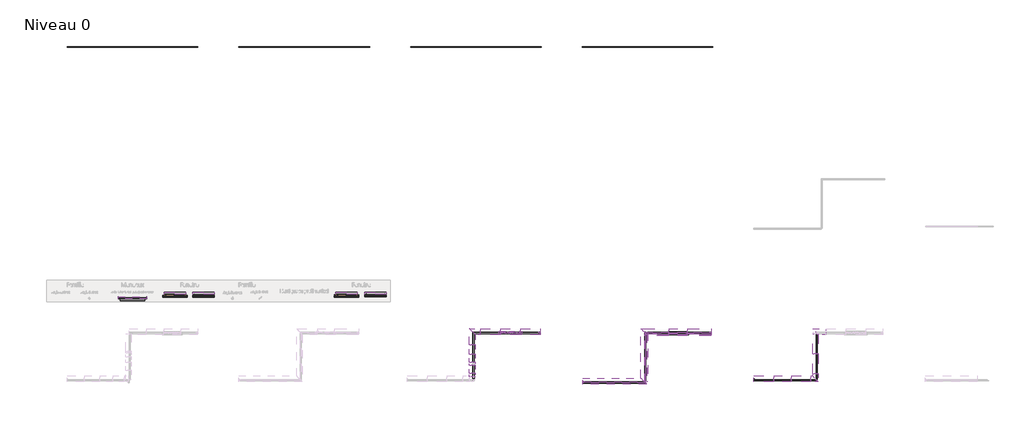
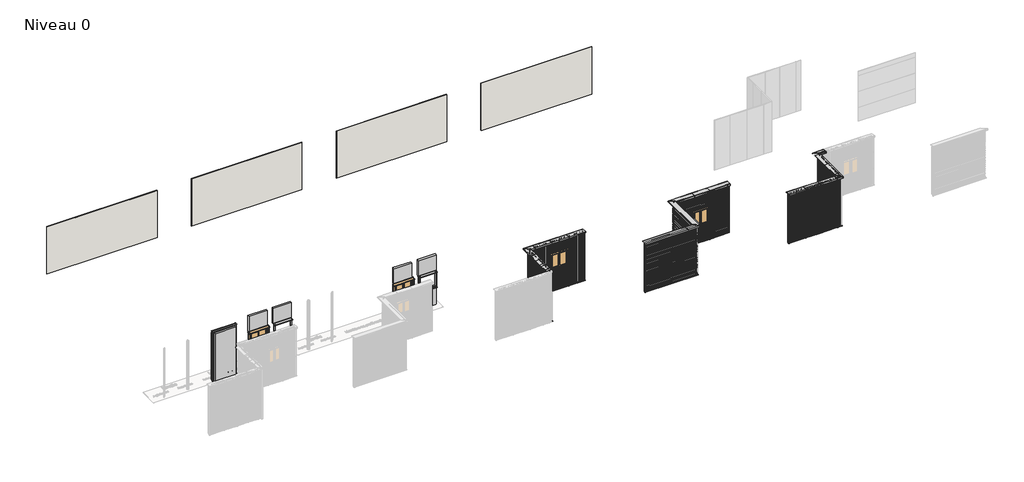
# One storey, part 2 of 11: 61 members, 48 plates, 4 doors, 4 walls.
"""IFC4 building model written with IfcOpenShell, lengths in millimetres."""

from ifc_helpers import new_model, si_unit, origin, origin_with_axes, place, context, project, spatial, polyline, outline, extrude, transform, mapped, element, save
from components import door_75d18bf7, door_d6fd2e2d, door_a9bf50d7, door_7bd7af4c, meneau_rectangulaire_553c7b44, meneau_rectangulaire_9e9f001b, meneau_rectangulaire_f5eb5793, meneau_rectangulaire_9a4c4fa2, meneau_rectangulaire_5152b783, meneau_rectangulaire_743d7d59, meneau_rectangulaire_0711325e, meneau_rectangulaire_151b46ef, meneau_rectangulaire_df2532a2, meneau_rectangulaire_9666dcc3, meneau_rectangulaire_7286c9cd, meneau_rectangulaire_fa6a0a9a, meneau_rectangulaire_ebad5e87, meneau_rectangulaire_bas_de_facade_e577a29c, meneau_rectangulaire_bas_de_facade_ff95f192, meneau_rectangulaire_bas_de_facade_054009f9, meneau_rectangulaire_bas_de_facade_33831006, meneau_rectangulaire_bas_de_facade_e9d27f3a, meneau_rectangulaire_bas_de_facade_be514184, meneau_rectangulaire_bas_de_facade_bd68af9d, meneau_rectangulaire_bas_de_facade_6c0907f5, meneau_rectangulaire_bas_de_facade_1d87740d, meneau_rectangulaire_bas_de_facade_afe9429f, meneau_rectangulaire_bas_de_facade_60382fdd, meneau_rectangulaire_bas_de_facade_97d3a993, meneau_rectangulaire_bas_de_facade_100d68d3, meneau_rectangulaire_bas_de_facade_49befa15, meneau_rectangulaire_bas_de_facade_a66ec44f, meneau_rectangulaire_bas_de_facade_77d001c4, meneau_rectangulaire_bas_de_facade_ae91a431, meneau_rectangulaire_bas_de_facade_21b43587, meneau_rectangulaire_bas_de_facade_0b753ce1, meneau_rectangulaire_haut_de_facade_bf62b1f4, meneau_rectangulaire_haut_de_facade_54da1b67, meneau_rectangulaire_haut_de_facade_83064606, meneau_rectangulaire_haut_de_facade_4c8db4a6, meneau_rectangulaire_haut_de_facade_865cd38e, meneau_rectangulaire_haut_de_facade_1b22ee8f, meneau_rectangulaire_haut_de_facade_e015aa21, meneau_rectangulaire_haut_de_facade_35e44159, meneau_rectangulaire_haut_de_facade_f07aff2c, meneau_rectangulaire_haut_de_facade_8eac4081, meneau_rectangulaire_haut_de_facade_12411631, meneau_rectangulaire_haut_de_facade_04a1f5c5, meneau_rectangulaire_haut_de_facade_5fdc1807, meneau_rectangulaire_haut_de_facade_ec6043b4, meneau_rectangulaire_haut_de_facade_ee0e3896, meneau_rectangulaire_haut_de_facade_bc7f2701, meneau_rectangulaire_haut_de_facade_a1bbe16c, plate_c23974d8, plate_ec8c995e, plate_d5ea7675, plate_c734a921, plate_aad33c17, plate_d554c0d4, plate_73b56dba, plate_e0f6d8fb, plate_fa6cf1e6, plate_f03b85ac, plate_7821fd8d, plate_2c54484f, plate_bd2025f0, plate_cdf76dba, plate_c95ae0e2, plate_763c75ff, plate_9f5fbec9, plate_852c840c, plate_f804d27e, plate_e83ec595, plate_3bc35dd9, plate_309b9aa2, plate_13dd3e1a, plate_fcad7bac, plate_3cee942e, vide_59922d02, vide_e340dee7, vide_395f324f, vide_271f8b02, vide_33e1f8f7, vide_5bf1e96c

model = new_model("IFC4")

# Units and contexts
model_context = context("Model", 3, world=origin())
ifc_project = project(units=[si_unit("LENGTHUNIT", "METRE", prefix="MILLI")], contexts=[model_context])

# Site, building, storey
site = spatial("IfcSite", under=ifc_project)
building = spatial("IfcBuilding", under=site)
storey = spatial("IfcBuildingStorey", under=building, Name="Niveau 0", Elevation=0.0)

# Doors
placement = place(None, origin())
door_shape = door_75d18bf7(model_context)
element("IfcDoor", 1, ObjectType="Fenetre pour Tenda V : Fenetre pour Tenda V", at=placement, inside=storey, context=model_context, shape_type="MappedRepresentation", body=[
    mapped(door_shape, transform((21604.5725557, -16882.8730274, 1240.0), x_axis=(-1.0, 0.0, 0.0), y_axis=(0.0, -1.0, 0.0), z_axis=(0.0, 0.0, 1.0))),
])
door_2_shape = door_d6fd2e2d(model_context)
element("IfcDoor", 2, ObjectType="Fenetre pour Tenda Horizontal : Fenetre pour Tenda H", at=placement, inside=storey, context=model_context, shape_type="MappedRepresentation", body=[
    mapped(door_2_shape, transform((29420.5476362, -16885.9155296, 957.5), x_axis=(-1.0, 0.0, 0.0), y_axis=(0.0, -1.0, 0.0), z_axis=(0.0, 0.0, 1.0))),
])
door_3_shape = door_a9bf50d7(model_context)
element("IfcDoor", 3, ObjectType="Fenetre pour Tenda V : Fenetre pour Tenda V", at=placement, inside=storey, context=model_context, shape_type="MappedRepresentation", body=[
    mapped(door_3_shape, transform((5988.0369394, -15153.8347653, 1100.0), x_axis=(1.0, 0.0, 0.0), y_axis=(0.0, 1.0, 0.0), z_axis=(0.0, 0.0, 1.0))),
])
door_4_shape = door_7bd7af4c(model_context)
element("IfcDoor", 4, ObjectType="Fenetre pour Tenda Horizontal : Fenetre pour Tenda H", at=placement, inside=storey, context=model_context, shape_type="MappedRepresentation", body=[
    mapped(door_4_shape, transform((13988.0369394, -15153.8347653, 1100.0), x_axis=(1.0, 0.0, 0.0), y_axis=(0.0, 1.0, 0.0), z_axis=(0.0, 0.0, 1.0))),
])

# Members
meneau_rectangulaire_shape = meneau_rectangulaire_553c7b44(model_context)
element("IfcMember", 5, ObjectType="Meneau rectangulaire : Jonction contre mur Droite H", at=placement, inside=storey, context=model_context, shape_type="MappedRepresentation", body=[
    mapped(meneau_rectangulaire_shape, transform((30970.5476362, -16885.9155296, 1885.5), x_axis=(1.0, 0.0, 0.0), y_axis=(0.0, 1.0, 0.0), z_axis=(0.0, 0.0, 1.0))),
])
element("IfcMember", 6, ObjectType="Meneau rectangulaire : Jonction contre mur Droite H", at=placement, inside=storey, context=model_context, shape_type="MappedRepresentation", body=[
    mapped(meneau_rectangulaire_shape, transform((30970.5476362, -16885.9155296, 2813.5), x_axis=(1.0, 0.0, 0.0), y_axis=(0.0, 1.0, 0.0), z_axis=(0.0, 0.0, 1.0))),
])
meneau_rectangulaire_2_shape = meneau_rectangulaire_9e9f001b(model_context)
element("IfcMember", 7, ObjectType="Meneau rectangulaire : Jonction contre mur Droite V", at=placement, inside=storey, context=model_context, shape_type="MappedRepresentation", body=[
    mapped(meneau_rectangulaire_2_shape, transform((22999.5725557, -16882.8730274, 2160.0), x_axis=(1.0, 0.0, 0.0), y_axis=(0.0, 1.0, 0.0), z_axis=(0.0, 0.0, 1.0))),
])
meneau_rectangulaire_3_shape = meneau_rectangulaire_f5eb5793(model_context)
element("IfcMember", 8, ObjectType="Meneau rectangulaire : Jonction contre mur Droite V", at=placement, inside=storey, context=model_context, shape_type="MappedRepresentation", body=[
    mapped(meneau_rectangulaire_3_shape, transform((22999.5725557, -16882.8730274, 1240.0), x_axis=(1.0, 0.0, 0.0), y_axis=(0.0, 1.0, 0.0), z_axis=(0.0, 0.0, 1.0))),
])
meneau_rectangulaire_4_shape = meneau_rectangulaire_9a4c4fa2(model_context)
element("IfcMember", 9, ObjectType="Meneau rectangulaire : Jonction contre mur Gauche V", at=placement, inside=storey, context=model_context, shape_type="MappedRepresentation", body=[
    mapped(meneau_rectangulaire_4_shape, transform((32961.6404896, -19085.8319197, 57.8548383), x_axis=(-1.0, 0.0, 0.0), y_axis=(0.0, 1.0, 0.0), z_axis=(0.0, 0.0, -1.0))),
])
meneau_rectangulaire_5_shape = meneau_rectangulaire_5152b783(model_context)
element("IfcMember", 10, ObjectType="Meneau rectangulaire : Jonction contre mur Droite V", at=placement, inside=storey, context=model_context, shape_type="MappedRepresentation", body=[
    mapped(meneau_rectangulaire_5_shape, transform((22999.5725557, -16882.8730274, 2819.0), x_axis=(1.0, 0.0, 0.0), y_axis=(0.0, 1.0, 0.0), z_axis=(0.0, 0.0, 1.0))),
])
meneau_rectangulaire_6_shape = meneau_rectangulaire_743d7d59(model_context)
element("IfcMember", 11, ObjectType="Meneau rectangulaire : Jonction contre mur Gauche H", at=placement, inside=storey, context=model_context, shape_type="MappedRepresentation", body=[
    mapped(meneau_rectangulaire_6_shape, transform((24975.5476362, -19184.1026202, 57.8548383), x_axis=(-1.0, 0.0, 0.0), y_axis=(0.0, 1.0, 0.0), z_axis=(0.0, 0.0, -1.0))),
])
meneau_rectangulaire_7_shape = meneau_rectangulaire_0711325e(model_context)
element("IfcMember", 12, ObjectType="Meneau rectangulaire : Jonction contre mur Droite H", at=placement, inside=storey, context=model_context, shape_type="MappedRepresentation", body=[
    mapped(meneau_rectangulaire_7_shape, transform((30970.5476362, -16885.9155296, 957.5), x_axis=(1.0, 0.0, 0.0), y_axis=(0.0, 1.0, 0.0), z_axis=(0.0, 0.0, 1.0))),
])
meneau_rectangulaire_8_shape = meneau_rectangulaire_151b46ef(model_context)
element("IfcMember", 13, ObjectType="Meneau rectangulaire : Jonction contre mur Gauche V", at=placement, inside=storey, context=model_context, shape_type="MappedRepresentation", body=[
    mapped(meneau_rectangulaire_8_shape, transform((4678.0369394, -15270.336188, 2900.0), x_axis=(0.0, 0.0, 1.0), y_axis=(0.0, -1.0, 0.0), z_axis=(1.0, 0.0, 0.0))),
])
meneau_rectangulaire_9_shape = meneau_rectangulaire_df2532a2(model_context)
element("IfcMember", 14, ObjectType="Meneau rectangulaire : Jonction contre mur Droite V", at=placement, inside=storey, context=model_context, shape_type="MappedRepresentation", body=[
    mapped(meneau_rectangulaire_9_shape, transform((3338.0369394, -15270.336188, 2804.1921851), x_axis=(-1.0, 0.0, 0.0), y_axis=(0.0, -1.0, 0.0), z_axis=(0.0, 0.0, 1.0))),
])
meneau_rectangulaire_10_shape = meneau_rectangulaire_9666dcc3(model_context)
element("IfcMember", 15, ObjectType="Meneau rectangulaire : Jonction contre mur Gauche V", at=placement, inside=storey, context=model_context, shape_type="MappedRepresentation", body=[
    mapped(meneau_rectangulaire_10_shape, transform((4678.0369394, -15270.336188, 57.8548383), x_axis=(1.0, 0.0, 0.0), y_axis=(0.0, -1.0, 0.0), z_axis=(0.0, 0.0, -1.0))),
])
meneau_rectangulaire_11_shape = meneau_rectangulaire_7286c9cd(model_context)
element("IfcMember", 16, ObjectType="Meneau rectangulaire : Jonction contre mur Gauche H", at=placement, inside=storey, context=model_context, shape_type="MappedRepresentation", body=[
    mapped(meneau_rectangulaire_11_shape, transform((24975.5476362, -19184.1026202, 956.0), x_axis=(-1.0, 0.0, 0.0), y_axis=(0.0, 1.0, 0.0), z_axis=(0.0, 0.0, -1.0))),
])
meneau_rectangulaire_12_shape = meneau_rectangulaire_fa6a0a9a(model_context)
element("IfcMember", 17, ObjectType="Meneau rectangulaire : Jonction contre mur Gauche H", at=placement, inside=storey, context=model_context, shape_type="MappedRepresentation", body=[
    mapped(meneau_rectangulaire_12_shape, transform((24975.5476362, -19184.1026202, 1790.0), x_axis=(-1.0, 0.0, 0.0), y_axis=(0.0, 1.0, 0.0), z_axis=(0.0, 0.0, -1.0))),
])
meneau_rectangulaire_13_shape = meneau_rectangulaire_ebad5e87(model_context)
element("IfcMember", 18, ObjectType="Meneau rectangulaire : Jonction contre mur Gauche H", at=placement, inside=storey, context=model_context, shape_type="MappedRepresentation", body=[
    mapped(meneau_rectangulaire_13_shape, transform((24975.5476362, -19184.1026202, 2518.0), x_axis=(-1.0, 0.0, 0.0), y_axis=(0.0, 1.0, 0.0), z_axis=(0.0, 0.0, -1.0))),
])
meneau_rectangulaire_bas_de_facade_shape = meneau_rectangulaire_bas_de_facade_e577a29c(model_context)
element("IfcMember", 19, ObjectType="Meneau rectangulaire : Bas de facade", at=placement, inside=storey, context=model_context, shape_type="MappedRepresentation", body=[
    mapped(meneau_rectangulaire_bas_de_facade_shape, transform((21139.5725557, -16882.8730274, 0.0), x_axis=(0.0, 0.0, -1.0), y_axis=(0.0, 1.0, 0.0), z_axis=(1.0, 0.0, 0.0))),
])
element("IfcMember", 20, ObjectType="Meneau rectangulaire : Bas de facade", at=placement, inside=storey, context=model_context, shape_type="MappedRepresentation", body=[
    mapped(meneau_rectangulaire_bas_de_facade_shape, transform((22069.5725557, -16882.8730274, 0.0), x_axis=(0.0, 0.0, -1.0), y_axis=(0.0, 1.0, 0.0), z_axis=(1.0, 0.0, 0.0))),
])
meneau_rectangulaire_bas_de_facade_2_shape = meneau_rectangulaire_bas_de_facade_ff95f192(model_context)
element("IfcMember", 21, ObjectType="Meneau rectangulaire : Bas de facade", at=placement, inside=storey, context=model_context, shape_type="MappedRepresentation", body=[
    mapped(meneau_rectangulaire_bas_de_facade_2_shape, transform((35861.6404896, -17885.7373975, 0.0), x_axis=(0.0, 0.0, -1.0), y_axis=(-1.0, 0.0, 0.0), z_axis=(0.0, 1.0, 0.0))),
])
element("IfcMember", 22, ObjectType="Meneau rectangulaire : Bas de facade", at=placement, inside=storey, context=model_context, shape_type="MappedRepresentation", body=[
    mapped(meneau_rectangulaire_bas_de_facade_2_shape, transform((35618.6404896, -19085.8319197, 0.0), x_axis=(0.0, 0.0, -1.0), y_axis=(0.0, 1.0, 0.0), z_axis=(1.0, 0.0, 0.0))),
])
element("IfcMember", 23, ObjectType="Meneau rectangulaire : Bas de facade", at=placement, inside=storey, context=model_context, shape_type="MappedRepresentation", body=[
    mapped(meneau_rectangulaire_bas_de_facade_2_shape, transform((35861.6404896, -16957.7373975, 0.0), x_axis=(0.0, 0.0, -1.0), y_axis=(-1.0, 0.0, 0.0), z_axis=(0.0, 1.0, 0.0))),
])
meneau_rectangulaire_bas_de_facade_3_shape = meneau_rectangulaire_bas_de_facade_054009f9(model_context)
element("IfcMember", 24, ObjectType="Meneau rectangulaire : Bas de facade", at=placement, inside=storey, context=model_context, shape_type="MappedRepresentation", body=[
    mapped(meneau_rectangulaire_bas_de_facade_3_shape, transform((34690.6404896, -19085.8319197, 0.0), x_axis=(0.0, 0.0, -1.0), y_axis=(0.0, 1.0, 0.0), z_axis=(1.0, 0.0, 0.0))),
])
meneau_rectangulaire_bas_de_facade_4_shape = meneau_rectangulaire_bas_de_facade_33831006(model_context)
element("IfcMember", 25, ObjectType="Meneau rectangulaire : Bas de facade", at=placement, inside=storey, context=model_context, shape_type="MappedRepresentation", body=[
    mapped(meneau_rectangulaire_bas_de_facade_4_shape, transform((29850.5476362, -16885.9155296, 0.0), x_axis=(0.0, 0.0, -1.0), y_axis=(0.0, 1.0, 0.0), z_axis=(1.0, 0.0, 0.0))),
])
element("IfcMember", 26, ObjectType="Meneau rectangulaire : Bas de facade", at=placement, inside=storey, context=model_context, shape_type="MappedRepresentation", body=[
    mapped(meneau_rectangulaire_bas_de_facade_shape, transform((22999.5725557, -16882.8730274, 0.0), x_axis=(0.0, 0.0, -1.0), y_axis=(0.0, 1.0, 0.0), z_axis=(1.0, 0.0, 0.0))),
])
element("IfcMember", 27, ObjectType="Meneau rectangulaire : Bas de facade", at=placement, inside=storey, context=model_context, shape_type="MappedRepresentation", body=[
    mapped(meneau_rectangulaire_bas_de_facade_2_shape, transform((33889.6404896, -19085.8319197, 0.0), x_axis=(0.0, 0.0, -1.0), y_axis=(0.0, 1.0, 0.0), z_axis=(1.0, 0.0, 0.0))),
])
meneau_rectangulaire_bas_de_facade_5_shape = meneau_rectangulaire_bas_de_facade_e9d27f3a(model_context)
element("IfcMember", 28, ObjectType="Meneau rectangulaire : Bas de facade", at=placement, inside=storey, context=model_context, shape_type="MappedRepresentation", body=[
    mapped(meneau_rectangulaire_bas_de_facade_5_shape, transform((30970.5476362, -16885.9155296, 0.0), x_axis=(0.0, 0.0, -1.0), y_axis=(0.0, 1.0, 0.0), z_axis=(1.0, 0.0, 0.0))),
])
meneau_rectangulaire_bas_de_facade_6_shape = meneau_rectangulaire_bas_de_facade_be514184(model_context)
element("IfcMember", 29, ObjectType="Meneau rectangulaire : Bas de facade", at=placement, inside=storey, context=model_context, shape_type="MappedRepresentation", body=[
    mapped(meneau_rectangulaire_bas_de_facade_6_shape, transform((28990.5476362, -16885.9155296, 0.0), x_axis=(0.0, 0.0, -1.0), y_axis=(0.0, 1.0, 0.0), z_axis=(1.0, 0.0, 0.0))),
])
meneau_rectangulaire_bas_de_facade_7_shape = meneau_rectangulaire_bas_de_facade_bd68af9d(model_context)
element("IfcMember", 30, ObjectType="Meneau rectangulaire : Bas de facade", at=placement, inside=storey, context=model_context, shape_type="MappedRepresentation", body=[
    mapped(meneau_rectangulaire_bas_de_facade_7_shape, transform((27870.5476362, -16885.9155296, 0.0), x_axis=(0.0, 0.0, -1.0), y_axis=(-1.0, 0.0, 0.0), z_axis=(0.0, 1.0, 0.0))),
])
meneau_rectangulaire_bas_de_facade_8_shape = meneau_rectangulaire_bas_de_facade_6c0907f5(model_context)
element("IfcMember", 31, ObjectType="Meneau rectangulaire : Bas de facade", at=placement, inside=storey, context=model_context, shape_type="MappedRepresentation", body=[
    mapped(meneau_rectangulaire_bas_de_facade_8_shape, transform((27870.5476362, -19184.1026202, 0.0), x_axis=(0.0, 0.0, -1.0), y_axis=(0.0, 1.0, 0.0), z_axis=(1.0, 0.0, 0.0))),
])
meneau_rectangulaire_bas_de_facade_9_shape = meneau_rectangulaire_bas_de_facade_1d87740d(model_context)
element("IfcMember", 32, ObjectType="Meneau rectangulaire : Bas de facade", at=placement, inside=storey, context=model_context, shape_type="MappedRepresentation", body=[
    mapped(meneau_rectangulaire_bas_de_facade_9_shape, transform((3338.0369394, -15270.336188, 0.0), x_axis=(0.0, 0.0, -1.0), y_axis=(0.0, -1.0, 0.0), z_axis=(-1.0, 0.0, 0.0))),
])
meneau_rectangulaire_bas_de_facade_10_shape = meneau_rectangulaire_bas_de_facade_afe9429f(model_context)
element("IfcMember", 33, ObjectType="Meneau rectangulaire : Bas de facade", at=placement, inside=storey, context=model_context, shape_type="MappedRepresentation", body=[
    mapped(meneau_rectangulaire_bas_de_facade_10_shape, transform((35861.6404896, -18813.7373975, 0.0), x_axis=(0.0, 0.0, -1.0), y_axis=(-1.0, 0.0, 0.0), z_axis=(0.0, 1.0, 0.0))),
])
meneau_rectangulaire_bas_de_facade_11_shape = meneau_rectangulaire_bas_de_facade_60382fdd(model_context)
element("IfcMember", 34, ObjectType="Meneau rectangulaire : Bas de facade", at=placement, inside=storey, context=model_context, shape_type="MappedRepresentation", body=[
    mapped(meneau_rectangulaire_bas_de_facade_11_shape, transform((35861.6404896, -19085.8319197, 0.0), x_axis=(0.0, 0.0, -1.0), y_axis=(0.0, 1.0, 0.0), z_axis=(1.0, 0.0, 0.0))),
])
meneau_rectangulaire_bas_de_facade_12_shape = meneau_rectangulaire_bas_de_facade_97d3a993(model_context)
element("IfcMember", 35, ObjectType="Meneau rectangulaire : Bas de facade", at=placement, inside=storey, context=model_context, shape_type="MappedRepresentation", body=[
    mapped(meneau_rectangulaire_bas_de_facade_12_shape, transform((35861.6404896, -16882.8730274, 0.0), x_axis=(0.0, 0.0, -1.0), y_axis=(-1.0, 0.0, 0.0), z_axis=(0.0, 1.0, 0.0))),
])
meneau_rectangulaire_bas_de_facade_13_shape = meneau_rectangulaire_bas_de_facade_100d68d3(model_context)
element("IfcMember", 36, ObjectType="Meneau rectangulaire : Bas de facade", at=placement, inside=storey, context=model_context, shape_type="MappedRepresentation", body=[
    mapped(meneau_rectangulaire_bas_de_facade_13_shape, transform((19874.5725557, -16882.8730274, 0.0), x_axis=(0.0, 0.0, -1.0), y_axis=(-1.0, 0.0, 0.0), z_axis=(0.0, 1.0, 0.0))),
])
meneau_rectangulaire_bas_de_facade_14_shape = meneau_rectangulaire_bas_de_facade_49befa15(model_context)
element("IfcMember", 37, ObjectType="Meneau rectangulaire : Bas de facade", at=placement, inside=storey, context=model_context, shape_type="MappedRepresentation", body=[
    mapped(meneau_rectangulaire_bas_de_facade_14_shape, transform((20209.5725557, -16882.8730274, 0.0), x_axis=(0.0, 0.0, -1.0), y_axis=(0.0, 1.0, 0.0), z_axis=(1.0, 0.0, 0.0))),
])
meneau_rectangulaire_bas_de_facade_15_shape = meneau_rectangulaire_bas_de_facade_a66ec44f(model_context)
element("IfcMember", 38, ObjectType="Meneau rectangulaire : Bas de facade", at=placement, inside=storey, context=model_context, shape_type="MappedRepresentation", body=[
    mapped(meneau_rectangulaire_bas_de_facade_15_shape, transform((19874.5725557, -17450.8730274, 0.0), x_axis=(0.0, 0.0, -1.0), y_axis=(-1.0, 0.0, 0.0), z_axis=(0.0, 1.0, 0.0))),
])
meneau_rectangulaire_bas_de_facade_16_shape = meneau_rectangulaire_bas_de_facade_77d001c4(model_context)
element("IfcMember", 39, ObjectType="Meneau rectangulaire : Bas de facade", at=placement, inside=storey, context=model_context, shape_type="MappedRepresentation", body=[
    mapped(meneau_rectangulaire_bas_de_facade_16_shape, transform((19874.5725557, -17907.8730274, 0.0), x_axis=(0.0, 0.0, -1.0), y_axis=(-1.0, 0.0, 0.0), z_axis=(0.0, 1.0, 0.0))),
])
meneau_rectangulaire_bas_de_facade_17_shape = meneau_rectangulaire_bas_de_facade_ae91a431(model_context)
element("IfcMember", 40, ObjectType="Meneau rectangulaire : Bas de facade", at=placement, inside=storey, context=model_context, shape_type="MappedRepresentation", body=[
    mapped(meneau_rectangulaire_bas_de_facade_17_shape, transform((19874.5725557, -18795.8319197, 0.0), x_axis=(0.0, 0.0, -1.0), y_axis=(-1.0, 0.0, 0.0), z_axis=(0.0, 1.0, 0.0))),
])
meneau_rectangulaire_bas_de_facade_18_shape = meneau_rectangulaire_bas_de_facade_21b43587(model_context)
element("IfcMember", 41, ObjectType="Meneau rectangulaire : Bas de facade", at=placement, inside=storey, context=model_context, shape_type="MappedRepresentation", body=[
    mapped(meneau_rectangulaire_bas_de_facade_18_shape, transform((19874.5725557, -18940.8319197, 0.0), x_axis=(0.0, 0.0, -1.0), y_axis=(-1.0, 0.0, 0.0), z_axis=(0.0, 1.0, 0.0))),
])
meneau_rectangulaire_bas_de_facade_19_shape = meneau_rectangulaire_bas_de_facade_0b753ce1(model_context)
element("IfcMember", 42, ObjectType="Meneau rectangulaire : Bas de facade", at=placement, inside=storey, context=model_context, shape_type="MappedRepresentation", body=[
    mapped(meneau_rectangulaire_bas_de_facade_19_shape, transform((19874.5725557, -18420.8730274, 0.0), x_axis=(0.0, 0.0, -1.0), y_axis=(-1.0, 0.0, 0.0), z_axis=(0.0, 1.0, 0.0))),
])
meneau_rectangulaire_haut_de_facade_shape = meneau_rectangulaire_haut_de_facade_bf62b1f4(model_context)
element("IfcMember", 43, ObjectType="Meneau rectangulaire : Haut de facade", at=placement, inside=storey, context=model_context, shape_type="MappedRepresentation", body=[
    mapped(meneau_rectangulaire_haut_de_facade_shape, transform((21139.5725557, -16882.8730274, 2900.0), x_axis=(0.0, 0.0, 1.0), y_axis=(0.0, 1.0, 0.0), z_axis=(-1.0, 0.0, 0.0))),
])
element("IfcMember", 44, ObjectType="Meneau rectangulaire : Haut de facade", at=placement, inside=storey, context=model_context, shape_type="MappedRepresentation", body=[
    mapped(meneau_rectangulaire_haut_de_facade_shape, transform((20209.5725557, -16882.8730274, 2900.0), x_axis=(0.0, 0.0, 1.0), y_axis=(0.0, 1.0, 0.0), z_axis=(-1.0, 0.0, 0.0))),
])
meneau_rectangulaire_haut_de_facade_2_shape = meneau_rectangulaire_haut_de_facade_54da1b67(model_context)
element("IfcMember", 45, ObjectType="Meneau rectangulaire : Haut de facade", at=placement, inside=storey, context=model_context, shape_type="MappedRepresentation", body=[
    mapped(meneau_rectangulaire_haut_de_facade_2_shape, transform((35861.6404896, -17885.7373975, 2900.0), x_axis=(0.0, 0.0, 1.0), y_axis=(-1.0, 0.0, 0.0), z_axis=(0.0, -1.0, 0.0))),
])
element("IfcMember", 46, ObjectType="Meneau rectangulaire : Haut de facade", at=placement, inside=storey, context=model_context, shape_type="MappedRepresentation", body=[
    mapped(meneau_rectangulaire_haut_de_facade_2_shape, transform((35861.6404896, -18813.7373975, 2900.0), x_axis=(0.0, 0.0, 1.0), y_axis=(-1.0, 0.0, 0.0), z_axis=(0.0, -1.0, 0.0))),
])
element("IfcMember", 47, ObjectType="Meneau rectangulaire : Haut de facade", at=placement, inside=storey, context=model_context, shape_type="MappedRepresentation", body=[
    mapped(meneau_rectangulaire_haut_de_facade_2_shape, transform((34690.6404896, -19085.8319197, 2900.0), x_axis=(0.0, 0.0, 1.0), y_axis=(0.0, 1.0, 0.0), z_axis=(-1.0, 0.0, 0.0))),
])
meneau_rectangulaire_haut_de_facade_3_shape = meneau_rectangulaire_haut_de_facade_83064606(model_context)
element("IfcMember", 48, ObjectType="Meneau rectangulaire : Haut de facade", at=placement, inside=storey, context=model_context, shape_type="MappedRepresentation", body=[
    mapped(meneau_rectangulaire_haut_de_facade_3_shape, transform((33889.6404896, -19085.8319197, 2900.0), x_axis=(0.0, 0.0, 1.0), y_axis=(0.0, 1.0, 0.0), z_axis=(-1.0, 0.0, 0.0))),
])
meneau_rectangulaire_haut_de_facade_4_shape = meneau_rectangulaire_haut_de_facade_4c8db4a6(model_context)
element("IfcMember", 49, ObjectType="Meneau rectangulaire : Haut de facade", at=placement, inside=storey, context=model_context, shape_type="MappedRepresentation", body=[
    mapped(meneau_rectangulaire_haut_de_facade_4_shape, transform((29850.5476362, -16885.9155296, 2900.0), x_axis=(0.0, 0.0, 1.0), y_axis=(0.0, 1.0, 0.0), z_axis=(-1.0, 0.0, 0.0))),
])
meneau_rectangulaire_haut_de_facade_5_shape = meneau_rectangulaire_haut_de_facade_865cd38e(model_context)
element("IfcMember", 50, ObjectType="Meneau rectangulaire : Haut de facade", at=placement, inside=storey, context=model_context, shape_type="MappedRepresentation", body=[
    mapped(meneau_rectangulaire_haut_de_facade_5_shape, transform((28990.5476362, -16885.9155296, 2900.0), x_axis=(0.0, 0.0, 1.0), y_axis=(0.0, 1.0, 0.0), z_axis=(-1.0, 0.0, 0.0))),
])
element("IfcMember", 51, ObjectType="Meneau rectangulaire : Haut de facade", at=placement, inside=storey, context=model_context, shape_type="MappedRepresentation", body=[
    mapped(meneau_rectangulaire_haut_de_facade_shape, transform((22069.5725557, -16882.8730274, 2900.0), x_axis=(0.0, 0.0, 1.0), y_axis=(0.0, 1.0, 0.0), z_axis=(-1.0, 0.0, 0.0))),
])
element("IfcMember", 52, ObjectType="Meneau rectangulaire : Haut de facade", at=placement, inside=storey, context=model_context, shape_type="MappedRepresentation", body=[
    mapped(meneau_rectangulaire_haut_de_facade_2_shape, transform((32961.6404896, -19085.8319197, 2900.0), x_axis=(0.0, 0.0, 1.0), y_axis=(0.0, 1.0, 0.0), z_axis=(-1.0, 0.0, 0.0))),
])
meneau_rectangulaire_haut_de_facade_6_shape = meneau_rectangulaire_haut_de_facade_1b22ee8f(model_context)
element("IfcMember", 53, ObjectType="Meneau rectangulaire : Haut de facade", at=placement, inside=storey, context=model_context, shape_type="MappedRepresentation", body=[
    mapped(meneau_rectangulaire_haut_de_facade_6_shape, transform((27870.5476362, -16885.9155296, 2900.0), x_axis=(0.0, 0.0, 1.0), y_axis=(0.0, 1.0, 0.0), z_axis=(-1.0, 0.0, 0.0))),
])
meneau_rectangulaire_haut_de_facade_7_shape = meneau_rectangulaire_haut_de_facade_e015aa21(model_context)
element("IfcMember", 54, ObjectType="Meneau rectangulaire : Haut de facade", at=placement, inside=storey, context=model_context, shape_type="MappedRepresentation", body=[
    mapped(meneau_rectangulaire_haut_de_facade_7_shape, transform((35861.6404896, -19085.8319197, 2900.0), x_axis=(0.0, 0.0, 1.0), y_axis=(-1.0, 0.0, 0.0), z_axis=(0.0, -1.0, 0.0))),
])
meneau_rectangulaire_haut_de_facade_8_shape = meneau_rectangulaire_haut_de_facade_35e44159(model_context)
element("IfcMember", 55, ObjectType="Meneau rectangulaire : Haut de facade", at=placement, inside=storey, context=model_context, shape_type="MappedRepresentation", body=[
    mapped(meneau_rectangulaire_haut_de_facade_8_shape, transform((35618.6404896, -19085.8319197, 2900.0), x_axis=(0.0, 0.0, 1.0), y_axis=(0.0, 1.0, 0.0), z_axis=(-1.0, 0.0, 0.0))),
])
meneau_rectangulaire_haut_de_facade_9_shape = meneau_rectangulaire_haut_de_facade_f07aff2c(model_context)
element("IfcMember", 56, ObjectType="Meneau rectangulaire : Haut de facade", at=placement, inside=storey, context=model_context, shape_type="MappedRepresentation", body=[
    mapped(meneau_rectangulaire_haut_de_facade_9_shape, transform((35861.6404896, -16882.8730274, 2900.0), x_axis=(0.0, 0.0, 1.0), y_axis=(0.0, 1.0, 0.0), z_axis=(-1.0, 0.0, 0.0))),
])
meneau_rectangulaire_haut_de_facade_10_shape = meneau_rectangulaire_haut_de_facade_8eac4081(model_context)
element("IfcMember", 57, ObjectType="Meneau rectangulaire : Haut de facade", at=placement, inside=storey, context=model_context, shape_type="MappedRepresentation", body=[
    mapped(meneau_rectangulaire_haut_de_facade_10_shape, transform((19874.5725557, -17450.8730274, 2900.0), x_axis=(0.0, 0.0, 1.0), y_axis=(-1.0, 0.0, 0.0), z_axis=(0.0, -1.0, 0.0))),
])
meneau_rectangulaire_haut_de_facade_11_shape = meneau_rectangulaire_haut_de_facade_12411631(model_context)
element("IfcMember", 58, ObjectType="Meneau rectangulaire : Haut de facade", at=placement, inside=storey, context=model_context, shape_type="MappedRepresentation", body=[
    mapped(meneau_rectangulaire_haut_de_facade_11_shape, transform((19874.5725557, -16882.8730274, 2900.0), x_axis=(0.0, 0.0, 1.0), y_axis=(0.0, 1.0, 0.0), z_axis=(-1.0, 0.0, 0.0))),
])
meneau_rectangulaire_haut_de_facade_12_shape = meneau_rectangulaire_haut_de_facade_04a1f5c5(model_context)
element("IfcMember", 59, ObjectType="Meneau rectangulaire : Haut de facade", at=placement, inside=storey, context=model_context, shape_type="MappedRepresentation", body=[
    mapped(meneau_rectangulaire_haut_de_facade_12_shape, transform((19874.5725557, -17907.8730274, 2900.0), x_axis=(0.0, 0.0, 1.0), y_axis=(-1.0, 0.0, 0.0), z_axis=(0.0, -1.0, 0.0))),
])
meneau_rectangulaire_haut_de_facade_13_shape = meneau_rectangulaire_haut_de_facade_5fdc1807(model_context)
element("IfcMember", 60, ObjectType="Meneau rectangulaire : Haut de facade", at=placement, inside=storey, context=model_context, shape_type="MappedRepresentation", body=[
    mapped(meneau_rectangulaire_haut_de_facade_13_shape, transform((19874.5725557, -18275.8730274, 2900.0), x_axis=(0.0, 0.0, 1.0), y_axis=(-1.0, 0.0, 0.0), z_axis=(0.0, -1.0, 0.0))),
])
meneau_rectangulaire_haut_de_facade_14_shape = meneau_rectangulaire_haut_de_facade_ec6043b4(model_context)
element("IfcMember", 61, ObjectType="Meneau rectangulaire : Haut de facade", at=placement, inside=storey, context=model_context, shape_type="MappedRepresentation", body=[
    mapped(meneau_rectangulaire_haut_de_facade_14_shape, transform((19874.5725557, -18420.8730274, 2900.0), x_axis=(0.0, 0.0, 1.0), y_axis=(-1.0, 0.0, 0.0), z_axis=(0.0, -1.0, 0.0))),
])
element("IfcMember", 62, ObjectType="Meneau rectangulaire : Haut de facade", at=placement, inside=storey, context=model_context, shape_type="MappedRepresentation", body=[
    mapped(meneau_rectangulaire_haut_de_facade_14_shape, transform((19874.5725557, -18940.8319197, 2900.0), x_axis=(0.0, 0.0, 1.0), y_axis=(-1.0, 0.0, 0.0), z_axis=(0.0, -1.0, 0.0))),
])
meneau_rectangulaire_haut_de_facade_15_shape = meneau_rectangulaire_haut_de_facade_ee0e3896(model_context)
element("IfcMember", 63, ObjectType="Meneau rectangulaire : Haut de facade", at=placement, inside=storey, context=model_context, shape_type="MappedRepresentation", body=[
    mapped(meneau_rectangulaire_haut_de_facade_15_shape, transform((19874.5725557, -18795.8319197, 2900.0), x_axis=(0.0, 0.0, 1.0), y_axis=(-1.0, 0.0, 0.0), z_axis=(0.0, -1.0, 0.0))),
])
meneau_rectangulaire_haut_de_facade_16_shape = meneau_rectangulaire_haut_de_facade_bc7f2701(model_context)
element("IfcMember", 64, ObjectType="Meneau rectangulaire : Haut de facade", at=placement, inside=storey, context=model_context, shape_type="MappedRepresentation", body=[
    mapped(meneau_rectangulaire_haut_de_facade_16_shape, transform((24975.5476362, -19184.1026202, 2900.0), x_axis=(0.0, 0.0, 1.0), y_axis=(0.0, 1.0, 0.0), z_axis=(-1.0, 0.0, 0.0))),
])
meneau_rectangulaire_haut_de_facade_17_shape = meneau_rectangulaire_haut_de_facade_a1bbe16c(model_context)
element("IfcMember", 65, ObjectType="Meneau rectangulaire : Haut de facade", at=placement, inside=storey, context=model_context, shape_type="MappedRepresentation", body=[
    mapped(meneau_rectangulaire_haut_de_facade_17_shape, transform((27870.5476362, -19184.1026202, 2900.0), x_axis=(0.0, 0.0, 1.0), y_axis=(-1.0, 0.0, 0.0), z_axis=(0.0, -1.0, 0.0))),
])

# Plates
plate_shape = plate_c23974d8(model_context)
element("IfcPlate", 66, ObjectType="Ritmica Horizontal 728 : Ritmica Horizontal 728", at=placement, inside=storey, context=model_context, shape_type="MappedRepresentation", body=[
    mapped(plate_shape, transform((26448.5476362, -19184.1026202, 1790.0), x_axis=(-1.0, 0.0, 0.0), y_axis=(0.0, -1.0, 0.0), z_axis=(0.0, 0.0, 1.0))),
])
plate_2_shape = plate_ec8c995e(model_context)
element("IfcPlate", 67, ObjectType="Ritmica Horizontal 569 : Ritmica Horizontal 569", at=placement, inside=storey, context=model_context, shape_type="MappedRepresentation", body=[
    mapped(plate_2_shape, transform((27870.5476362, -18035.0090749, 30.7239521), x_axis=(0.0, -1.0, 0.0), y_axis=(1.0, 0.0, 0.0), z_axis=(0.0, 0.0, 1.0))),
])
plate_3_shape = plate_d5ea7675(model_context)
element("IfcPlate", 68, ObjectType="Ritmica Horizontal 457 : Ritmica Horizontal 457", at=placement, inside=storey, context=model_context, shape_type="MappedRepresentation", body=[
    mapped(plate_3_shape, transform((27870.5476362, -18035.0090749, 568.0), x_axis=(0.0, -1.0, 0.0), y_axis=(1.0, 0.0, 0.0), z_axis=(0.0, 0.0, 1.0))),
])
plate_4_shape = plate_c734a921(model_context)
element("IfcPlate", 69, ObjectType="Ritmica Horizontal 368 : Ritmica Horizontal 368", at=placement, inside=storey, context=model_context, shape_type="MappedRepresentation", body=[
    mapped(plate_4_shape, transform((27870.5476362, -18035.0090749, 1025.0), x_axis=(0.0, -1.0, 0.0), y_axis=(1.0, 0.0, 0.0), z_axis=(0.0, 0.0, 1.0))),
])
plate_5_shape = plate_aad33c17(model_context)
element("IfcPlate", 70, ObjectType="Ritmica Horizontal 368 : Ritmica Horizontal 368", at=placement, inside=storey, context=model_context, shape_type="MappedRepresentation", body=[
    mapped(plate_5_shape, transform((26448.5476362, -19184.1026202, 2518.0), x_axis=(-1.0, 0.0, 0.0), y_axis=(0.0, -1.0, 0.0), z_axis=(0.0, 0.0, 1.0))),
])
element("IfcPlate", 71, ObjectType="Ritmica Horizontal 368 : Ritmica Horizontal 368", at=placement, inside=storey, context=model_context, shape_type="MappedRepresentation", body=[
    mapped(plate_4_shape, transform((27870.5476362, -18035.0090749, 2466.0), x_axis=(0.0, -1.0, 0.0), y_axis=(1.0, 0.0, 0.0), z_axis=(0.0, 0.0, 1.0))),
])
plate_6_shape = plate_d554c0d4(model_context)
element("IfcPlate", 72, ObjectType="Ritmica Horizontal 145 : Ritmica Horizontal 145", at=placement, inside=storey, context=model_context, shape_type="MappedRepresentation", body=[
    mapped(plate_6_shape, transform((27870.5476362, -18035.0090749, 1393.0), x_axis=(0.0, -1.0, 0.0), y_axis=(1.0, 0.0, 0.0), z_axis=(0.0, 0.0, 1.0))),
])
plate_7_shape = plate_73b56dba(model_context)
element("IfcPlate", 73, ObjectType="Regolare Vertical 801 : Regolare Vertical 801", at=placement, inside=storey, context=model_context, shape_type="MappedRepresentation", body=[
    mapped(plate_7_shape, transform((34290.1404896, -19085.8319197, 30.7239521), x_axis=(-1.0, 0.0, 0.0), y_axis=(0.0, -1.0, 0.0), z_axis=(0.0, 0.0, 1.0))),
])
plate_8_shape = plate_e0f6d8fb(model_context)
element("IfcPlate", 74, ObjectType="Entourage de baie Vertical : Entourage de baie Vertical", at=placement, inside=storey, context=model_context, shape_type="MappedRepresentation", body=[
    mapped(plate_8_shape, transform((7328.0369394, -15153.8347653, 1100.0), x_axis=(1.0, 0.0, 0.0), y_axis=(0.0, 1.0, 0.0), z_axis=(0.0, 0.0, 1.0))),
])
plate_9_shape = plate_fa6cf1e6(model_context)
element("IfcPlate", 75, ObjectType="Entourage de baie Horizontal : Entourage de baie Horizontal", at=placement, inside=storey, context=model_context, shape_type="MappedRepresentation", body=[
    mapped(plate_9_shape, transform((15328.0369394, -15153.8347653, 1100.0), x_axis=(1.0, 0.0, 0.0), y_axis=(0.0, 1.0, 0.0), z_axis=(0.0, 0.0, 1.0))),
])
plate_10_shape = plate_f03b85ac(model_context)
element("IfcPlate", 76, ObjectType="Regolare Vertical 267 : Regolare Vertical 267", at=placement, inside=storey, context=model_context, shape_type="MappedRepresentation", body=[
    mapped(plate_10_shape, transform((35861.6404896, -18949.7846586, 30.7239521), x_axis=(0.0, -1.0, 0.0), y_axis=(1.0, 0.0, 0.0), z_axis=(0.0, 0.0, 1.0))),
])
element("IfcPlate", 77, ObjectType="Regolare Vertical 267 : Regolare Vertical 267", at=placement, inside=storey, context=model_context, shape_type="MappedRepresentation", body=[
    mapped(plate_10_shape, transform((35740.1404896, -19085.8319197, 30.7239521), x_axis=(-1.0, 0.0, 0.0), y_axis=(0.0, -1.0, 0.0), z_axis=(0.0, 0.0, 1.0))),
])
plate_11_shape = plate_7821fd8d(model_context)
element("IfcPlate", 78, ObjectType="Regolare Vertical 89 : Regolare Vertical 89", at=placement, inside=storey, context=model_context, shape_type="MappedRepresentation", body=[
    mapped(plate_11_shape, transform((35861.6404896, -16920.3052124, 30.7239521), x_axis=(0.0, -1.0, 0.0), y_axis=(1.0, 0.0, 0.0), z_axis=(0.0, 0.0, 1.0))),
])
plate_12_shape = plate_2c54484f(model_context)
element("IfcPlate", 79, ObjectType="Ritmica Vertical 928 : Ritmica Vertical 928", at=placement, inside=storey, context=model_context, shape_type="MappedRepresentation", body=[
    mapped(plate_12_shape, transform((35861.6404896, -18349.7373975, 30.7239521), x_axis=(0.0, -1.0, 0.0), y_axis=(1.0, 0.0, 0.0), z_axis=(0.0, 0.0, 1.0))),
])
element("IfcPlate", 80, ObjectType="Ritmica Vertical 928 : Ritmica Vertical 928", at=placement, inside=storey, context=model_context, shape_type="MappedRepresentation", body=[
    mapped(plate_12_shape, transform((35154.6404896, -19085.8319197, 30.7239521), x_axis=(-1.0, 0.0, 0.0), y_axis=(0.0, -1.0, 0.0), z_axis=(0.0, 0.0, 1.0))),
])
element("IfcPlate", 81, ObjectType="Ritmica Vertical 928 : Ritmica Vertical 928", at=placement, inside=storey, context=model_context, shape_type="MappedRepresentation", body=[
    mapped(plate_12_shape, transform((35861.6404896, -17421.7373975, 30.7239521), x_axis=(0.0, -1.0, 0.0), y_axis=(1.0, 0.0, 0.0), z_axis=(0.0, 0.0, 1.0))),
])
plate_13_shape = plate_bd2025f0(model_context)
element("IfcPlate", 82, ObjectType="Ritmica Vertical 928 : Ritmica Vertical 928", at=placement, inside=storey, context=model_context, shape_type="MappedRepresentation", body=[
    mapped(plate_13_shape, transform((21604.5725557, -16882.8730274, 30.7239521), x_axis=(-1.0, 0.0, 0.0), y_axis=(0.0, -1.0, 0.0), z_axis=(0.0, 0.0, 1.0))),
])
plate_14_shape = plate_cdf76dba(model_context)
element("IfcPlate", 83, ObjectType="Ritmica Vertical 928 : Ritmica Vertical 928", at=placement, inside=storey, context=model_context, shape_type="MappedRepresentation", body=[
    mapped(plate_14_shape, transform((21604.5725557, -16882.8730274, 2160.0), x_axis=(-1.0, 0.0, 0.0), y_axis=(0.0, -1.0, 0.0), z_axis=(0.0, 0.0, 1.0))),
])
element("IfcPlate", 84, ObjectType="Ritmica Vertical 928 : Ritmica Vertical 928", at=placement, inside=storey, context=model_context, shape_type="MappedRepresentation", body=[
    mapped(plate_12_shape, transform((20674.5725557, -16882.8730274, 30.7239521), x_axis=(-1.0, 0.0, 0.0), y_axis=(0.0, -1.0, 0.0), z_axis=(0.0, 0.0, 1.0))),
])
plate_15_shape = plate_c95ae0e2(model_context)
element("IfcPlate", 85, ObjectType="Ritmica Vertical 834 : Ritmica Vertical 834", at=placement, inside=storey, context=model_context, shape_type="MappedRepresentation", body=[
    mapped(plate_15_shape, transform((22486.7382348, -16882.8730274, 30.7239521), x_axis=(-1.0, 0.0, 0.0), y_axis=(0.0, -1.0, 0.0), z_axis=(0.0, 0.0, 1.0))),
])
element("IfcPlate", 86, ObjectType="Ritmica Vertical 834 : Ritmica Vertical 834", at=placement, inside=storey, context=model_context, shape_type="MappedRepresentation", body=[
    mapped(plate_15_shape, transform((33473.4748105, -19085.8319197, 30.7239521), x_axis=(-1.0, 0.0, 0.0), y_axis=(0.0, -1.0, 0.0), z_axis=(0.0, 0.0, 1.0))),
])
plate_16_shape = plate_763c75ff(model_context)
element("IfcPlate", 87, ObjectType="Ritmica Vertical 457 : Ritmica Vertical 457", at=placement, inside=storey, context=model_context, shape_type="MappedRepresentation", body=[
    mapped(plate_16_shape, transform((19874.5725557, -17679.3730274, 30.7239521), x_axis=(0.0, -1.0, 0.0), y_axis=(1.0, 0.0, 0.0), z_axis=(0.0, 0.0, 1.0))),
])
plate_17_shape = plate_9f5fbec9(model_context)
element("IfcPlate", 88, ObjectType="Ritmica Vertical 368 : Ritmica Vertical 368", at=placement, inside=storey, context=model_context, shape_type="MappedRepresentation", body=[
    mapped(plate_17_shape, transform((19874.5725557, -18091.8730274, 30.7239521), x_axis=(0.0, -1.0, 0.0), y_axis=(1.0, 0.0, 0.0), z_axis=(0.0, 0.0, 1.0))),
])
element("IfcPlate", 89, ObjectType="Ritmica Vertical 368 : Ritmica Vertical 368", at=placement, inside=storey, context=model_context, shape_type="MappedRepresentation", body=[
    mapped(plate_17_shape, transform((20042.0725557, -16882.8730274, 30.7239521), x_axis=(-1.0, 0.0, 0.0), y_axis=(0.0, -1.0, 0.0), z_axis=(0.0, 0.0, 1.0))),
])
element("IfcPlate", 90, ObjectType="Ritmica Vertical 368 : Ritmica Vertical 368", at=placement, inside=storey, context=model_context, shape_type="MappedRepresentation", body=[
    mapped(plate_17_shape, transform((19874.5725557, -18608.3524736, 30.7239521), x_axis=(0.0, -1.0, 0.0), y_axis=(1.0, 0.0, 0.0), z_axis=(0.0, 0.0, 1.0))),
])
plate_18_shape = plate_852c840c(model_context)
element("IfcPlate", 91, ObjectType="Ritmica Vertical 145 : Ritmica Vertical 145", at=placement, inside=storey, context=model_context, shape_type="MappedRepresentation", body=[
    mapped(plate_18_shape, transform((19874.5725557, -18348.3730274, 30.7239521), x_axis=(0.0, -1.0, 0.0), y_axis=(1.0, 0.0, 0.0), z_axis=(0.0, 0.0, 1.0))),
])
element("IfcPlate", 92, ObjectType="Ritmica Vertical 145 : Ritmica Vertical 145", at=placement, inside=storey, context=model_context, shape_type="MappedRepresentation", body=[
    mapped(plate_18_shape, transform((19874.5725557, -18868.3319197, 30.7239521), x_axis=(0.0, -1.0, 0.0), y_axis=(1.0, 0.0, 0.0), z_axis=(0.0, 0.0, 1.0))),
])
plate_19_shape = plate_f804d27e(model_context)
element("IfcPlate", 93, ObjectType="Ritmica Vertical 569 : Ritmica Vertical 569", at=placement, inside=storey, context=model_context, shape_type="MappedRepresentation", body=[
    mapped(plate_19_shape, transform((19874.5725557, -17166.8730274, 30.7239521), x_axis=(0.0, -1.0, 0.0), y_axis=(1.0, 0.0, 0.0), z_axis=(0.0, 0.0, 1.0))),
])
plate_20_shape = plate_e83ec595(model_context)
element("IfcPlate", 94, ObjectType="Ritmica Horizontal 928 : Ritmica Horizontal 928", at=placement, inside=storey, context=model_context, shape_type="MappedRepresentation", body=[
    mapped(plate_20_shape, transform((29395.0476362, -16885.9155296, 30.7239521), x_axis=(-1.0, 0.0, 0.0), y_axis=(0.0, -1.0, 0.0), z_axis=(0.0, 0.0, 1.0))),
])
plate_21_shape = plate_3bc35dd9(model_context)
element("IfcPlate", 95, ObjectType="Ritmica Horizontal 928 : Ritmica Horizontal 928", at=placement, inside=storey, context=model_context, shape_type="MappedRepresentation", body=[
    mapped(plate_21_shape, transform((30385.0476362, -16885.9155296, 957.5), x_axis=(-1.0, 0.0, 0.0), y_axis=(0.0, -1.0, 0.0), z_axis=(0.0, 0.0, 1.0))),
])
element("IfcPlate", 96, ObjectType="Ritmica Horizontal 928 : Ritmica Horizontal 928", at=placement, inside=storey, context=model_context, shape_type="MappedRepresentation", body=[
    mapped(plate_20_shape, transform((29395.0476362, -16885.9155296, 1885.5), x_axis=(-1.0, 0.0, 0.0), y_axis=(0.0, -1.0, 0.0), z_axis=(0.0, 0.0, 1.0))),
])
plate_22_shape = plate_309b9aa2(model_context)
element("IfcPlate", 97, ObjectType="Ritmica Horizontal 928 : Ritmica Horizontal 928", at=placement, inside=storey, context=model_context, shape_type="MappedRepresentation", body=[
    mapped(plate_22_shape, transform((28430.5476362, -16885.9155296, 957.5), x_axis=(-1.0, 0.0, 0.0), y_axis=(0.0, -1.0, 0.0), z_axis=(0.0, 0.0, 1.0))),
])
plate_23_shape = plate_13dd3e1a(model_context)
element("IfcPlate", 98, ObjectType="Ritmica Horizontal 928 : Ritmica Horizontal 928", at=placement, inside=storey, context=model_context, shape_type="MappedRepresentation", body=[
    mapped(plate_23_shape, transform((26448.5476362, -19184.1026202, 30.7239521), x_axis=(-1.0, 0.0, 0.0), y_axis=(0.0, -1.0, 0.0), z_axis=(0.0, 0.0, 1.0))),
])
plate_24_shape = plate_fcad7bac(model_context)
element("IfcPlate", 99, ObjectType="Ritmica Horizontal 928 : Ritmica Horizontal 928", at=placement, inside=storey, context=model_context, shape_type="MappedRepresentation", body=[
    mapped(plate_24_shape, transform((27870.5476362, -18035.0090749, 1538.0), x_axis=(0.0, -1.0, 0.0), y_axis=(1.0, 0.0, 0.0), z_axis=(0.0, 0.0, 1.0))),
])
plate_25_shape = plate_3cee942e(model_context)
element("IfcPlate", 100, ObjectType="Ritmica Horizontal 834 : Ritmica Horizontal 831", at=placement, inside=storey, context=model_context, shape_type="MappedRepresentation", body=[
    mapped(plate_25_shape, transform((26448.5476362, -19184.1026202, 956.0), x_axis=(-1.0, 0.0, 0.0), y_axis=(0.0, -1.0, 0.0), z_axis=(0.0, 0.0, 1.0))),
])
vide_shape = vide_59922d02(model_context)
element("IfcPlate", 101, ObjectType="Panneau système vide : Vide", at=placement, inside=storey, context=model_context, shape_type="MappedRepresentation", body=[
    mapped(vide_shape, transform((4008.0369394, -15270.336188, 30.7239521), x_axis=(1.0, 0.0, 0.0), y_axis=(0.0, 1.0, 0.0), z_axis=(0.0, 0.0, 1.0))),
])
vide_2_shape = vide_e340dee7(model_context)
element("IfcPlate", 102, ObjectType="Panneau système vide : Vide", at=placement, inside=storey, context=model_context, shape_type="MappedRepresentation", body=[
    mapped(vide_2_shape, transform((27870.5476362, -18035.0090749, 2812.0), x_axis=(0.0, -1.0, 0.0), y_axis=(1.0, 0.0, 0.0), z_axis=(0.0, 0.0, 1.0))),
])
vide_3_shape = vide_395f324f(model_context)
element("IfcPlate", 103, ObjectType="Panneau système vide : Vide", at=placement, inside=storey, context=model_context, shape_type="MappedRepresentation", body=[
    mapped(vide_3_shape, transform((30410.5476362, -16885.9155296, 2813.5), x_axis=(-1.0, 0.0, 0.0), y_axis=(0.0, -1.0, 0.0), z_axis=(0.0, 0.0, 1.0))),
])
element("IfcPlate", 104, ObjectType="Panneau système vide : Vide", at=placement, inside=storey, context=model_context, shape_type="MappedRepresentation", body=[
    mapped(vide_3_shape, transform((28430.5476362, -16885.9155296, 2813.5), x_axis=(-1.0, 0.0, 0.0), y_axis=(0.0, -1.0, 0.0), z_axis=(0.0, 0.0, 1.0))),
])
vide_4_shape = vide_271f8b02(model_context)
element("IfcPlate", 105, ObjectType="Panneau système vide : Vide", at=placement, inside=storey, context=model_context, shape_type="MappedRepresentation", body=[
    mapped(vide_4_shape, transform((29420.5476362, -16885.9155296, 2813.5), x_axis=(-1.0, 0.0, 0.0), y_axis=(0.0, -1.0, 0.0), z_axis=(0.0, 0.0, 1.0))),
])
vide_5_shape = vide_33e1f8f7(model_context)
element("IfcPlate", 106, ObjectType="Panneau système vide : Vide", at=placement, inside=storey, context=model_context, shape_type="MappedRepresentation", body=[
    mapped(vide_5_shape, transform((5988.0369394, -15153.8347653, 2000.0), x_axis=(1.0, 0.0, 0.0), y_axis=(0.0, 1.0, 0.0), z_axis=(0.0, 0.0, 1.0))),
])
element("IfcPlate", 107, ObjectType="Panneau système vide : Vide", at=placement, inside=storey, context=model_context, shape_type="MappedRepresentation", body=[
    mapped(vide_5_shape, transform((7328.0369394, -15153.8347653, 2000.0), x_axis=(1.0, 0.0, 0.0), y_axis=(0.0, 1.0, 0.0), z_axis=(0.0, 0.0, 1.0))),
])
element("IfcPlate", 108, ObjectType="Panneau système vide : Vide", at=placement, inside=storey, context=model_context, shape_type="MappedRepresentation", body=[
    mapped(vide_5_shape, transform((15328.0369394, -15153.8347653, 2000.0), x_axis=(1.0, 0.0, 0.0), y_axis=(0.0, 1.0, 0.0), z_axis=(0.0, 0.0, 1.0))),
])
element("IfcPlate", 109, ObjectType="Panneau système vide : Vide", at=placement, inside=storey, context=model_context, shape_type="MappedRepresentation", body=[
    mapped(vide_5_shape, transform((13988.0369394, -15153.8347653, 2000.0), x_axis=(1.0, 0.0, 0.0), y_axis=(0.0, 1.0, 0.0), z_axis=(0.0, 0.0, 1.0))),
])
vide_6_shape = vide_5bf1e96c(model_context)
element("IfcPlate", 110, ObjectType="Panneau système vide : Vide", at=placement, inside=storey, context=model_context, shape_type="MappedRepresentation", body=[
    mapped(vide_6_shape, transform((5988.0369394, -15153.8347653, 0.0), x_axis=(1.0, 0.0, 0.0), y_axis=(0.0, 1.0, 0.0), z_axis=(0.0, 0.0, 1.0))),
])
element("IfcPlate", 111, ObjectType="Panneau système vide : Vide", at=placement, inside=storey, context=model_context, shape_type="MappedRepresentation", body=[
    mapped(vide_6_shape, transform((7328.0369394, -15153.8347653, 0.0), x_axis=(1.0, 0.0, 0.0), y_axis=(0.0, 1.0, 0.0), z_axis=(0.0, 0.0, 1.0))),
])
element("IfcPlate", 112, ObjectType="Panneau système vide : Vide", at=placement, inside=storey, context=model_context, shape_type="MappedRepresentation", body=[
    mapped(vide_6_shape, transform((15328.0369394, -15153.8347653, 0.0), x_axis=(1.0, 0.0, 0.0), y_axis=(0.0, 1.0, 0.0), z_axis=(0.0, 0.0, 1.0))),
])
element("IfcPlate", 113, ObjectType="Panneau système vide : Vide", at=placement, inside=storey, context=model_context, shape_type="MappedRepresentation", body=[
    mapped(vide_6_shape, transform((13988.0369394, -15153.8347653, 0.0), x_axis=(1.0, 0.0, 0.0), y_axis=(0.0, 1.0, 0.0), z_axis=(0.0, 0.0, 1.0))),
])

# Walls
element("IfcWall", 114, ObjectType="Lod 100 Regolare 800 V", at=placement, inside=storey, context=model_context, shape_type="SweptSolid", body=[
    extrude(outline(polyline([(7053.4302493, -3603.83192), (963.0369394, -3603.83192), (963.0369394, -3567.83192), (7053.4302493, -3567.83192), (7053.4302493, -3603.83192)])), origin_with_axes(), (0.0, 0.0, 1.0), 2750.0),
])
element("IfcWall", 115, ObjectType="Lod 100 Ritmica 930 V", at=placement, inside=storey, context=model_context, shape_type="SweptSolid", body=[
    extrude(outline(polyline([(23053.4302493, -3603.83192), (16963.0369394, -3603.83192), (16963.0369394, -3567.83192), (23053.4302493, -3567.83192), (23053.4302493, -3603.83192)])), origin_with_axes(), (0.0, 0.0, 1.0), 2750.0),
])
element("IfcWall", 116, ObjectType="Lod 100 Ritmica 930 H", at=placement, inside=storey, context=model_context, shape_type="SweptSolid", body=[
    extrude(outline(polyline([(31053.4302493, -3603.83192), (24963.0369394, -3603.83192), (24963.0369394, -3567.83192), (31053.4302493, -3567.83192), (31053.4302493, -3603.83192)])), origin_with_axes(), (0.0, 0.0, 1.0), 2750.0),
])
element("IfcWall", 117, ObjectType="Lod 100 Regolare 800 H", at=placement, inside=storey, context=model_context, shape_type="SweptSolid", body=[
    extrude(outline(polyline([(15053.4302493, -3603.83192), (8963.0369394, -3603.83192), (8963.0369394, -3567.83192), (15053.4302493, -3567.83192), (15053.4302493, -3603.83192)])), origin_with_axes(), (0.0, 0.0, 1.0), 2750.0),
])

save(model, "model.ifc")
